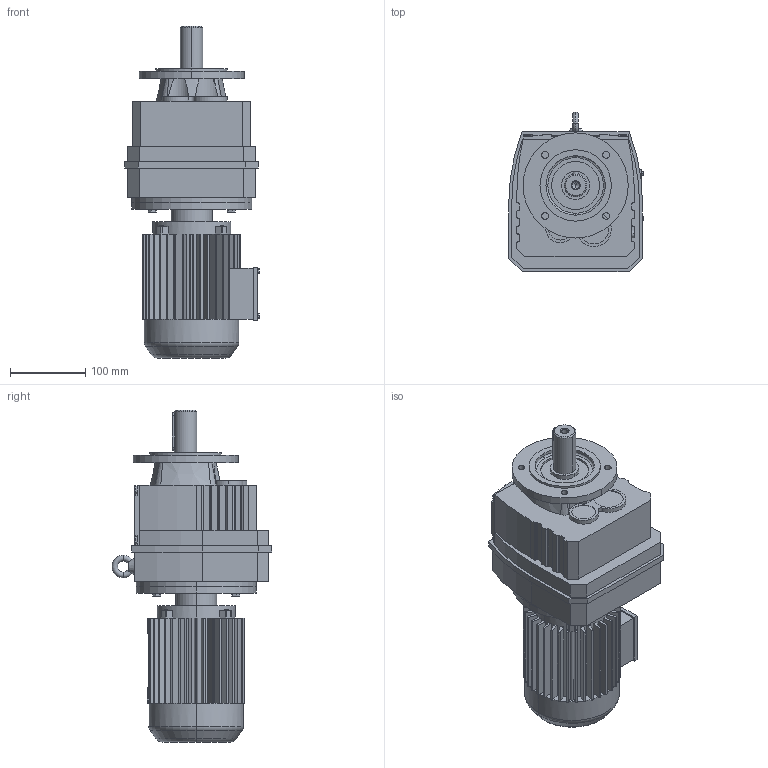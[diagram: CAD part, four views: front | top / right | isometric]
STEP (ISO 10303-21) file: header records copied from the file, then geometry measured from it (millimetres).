
FILE_DESCRIPTION(('Open CASCADE Model'),'2;1');
FILE_NAME('Open CASCADE Shape Model','2018-09-13T11:35:30',('Author'),( 'Open CASCADE'),'Open CASCADE STEP processor 6.3','Open CASCADE 6.3' ,'Unknown');
FILE_SCHEMA(('AUTOMOTIVE_DESIGN_CC2 { 1 2 10303 214 -1 1 5 4 }'));
Length unit declared in the file: millimetre
Products named in the file (3): 243_RF47-Y63S-140; RF37‵167_47_140.step; 萇儂_160_Y63S.step
Assembly tree (2 placements, depth 2):
  243_RF47-Y63S-140
    RF37‵167_47_140.step
    萇儂_160_Y63S.step
Bounding box: 179 x 213 x 442 mm (x, y, z)
Volume: 6292244.2 mm3; surface area: 433415.2 mm2
Topology: 2 solids, 2 shells, 736 faces, 1947 edges, 1258 vertices
Faces by surface type: plane 513, cylinder 191, cone 20, torus 12
Entity records: 51494 total; most frequent: CARTESIAN_POINT 14328, DIRECTION 6478, ORIENTED_EDGE 3890, PCURVE 3890, DEFINITIONAL_REPRESENTATION 3890, LINE 3552, VECTOR 3552, EDGE_CURVE 1945
